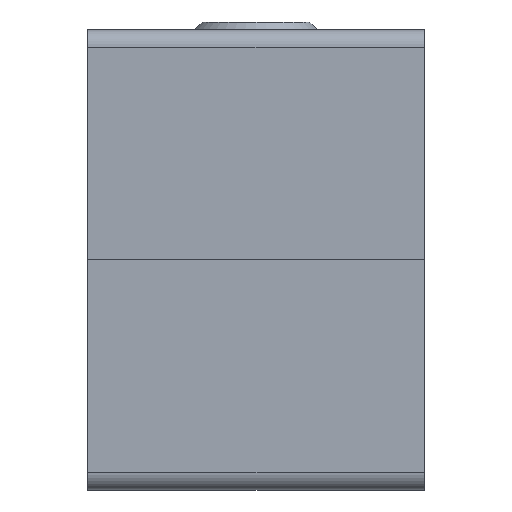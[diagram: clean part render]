
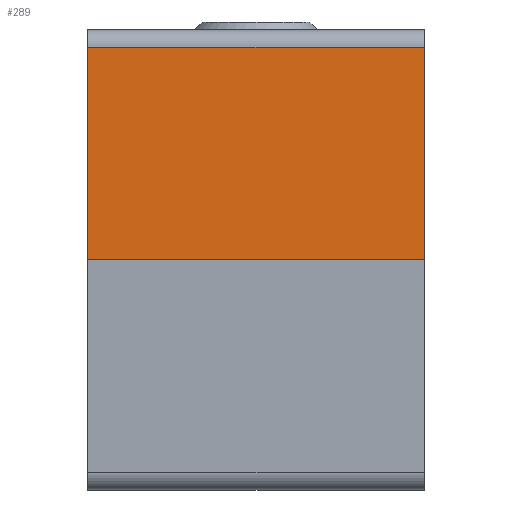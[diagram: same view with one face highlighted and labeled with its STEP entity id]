
A CAD part, left-side view. The second image highlights one B-rep face of the part: STEP entity #289.
In plain terms, the highlighted planar face has unit normal (-1, 0, 0) as drawn and (1, 0, 0) by its records, which use the part's own axes.
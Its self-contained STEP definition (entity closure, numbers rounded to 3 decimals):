
#289=ADVANCED_FACE('',(#556),#557,.F.);
#556=FACE_OUTER_BOUND('',#826,.T.);
#557=PLANE('',#827);
#826=EDGE_LOOP('',(#1464,#1465,#1466,#1467));
#827=AXIS2_PLACEMENT_3D('',#1468,#1469,#1470);
#1464=ORIENTED_EDGE('',*,*,#1817,.T.);
#1465=ORIENTED_EDGE('',*,*,#1885,.F.);
#1466=ORIENTED_EDGE('',*,*,#1764,.F.);
#1467=ORIENTED_EDGE('',*,*,#1942,.T.);
#1468=CARTESIAN_POINT('',(18.,0.,19.0));
#1469=DIRECTION('',(-1.0,0.0,0.0));
#1470=DIRECTION('',(0.0,0.0,1.0));
#1764=EDGE_CURVE('',#2129,#2131,#2132,.T.);
#1817=EDGE_CURVE('',#2228,#2226,#2229,.T.);
#1885=EDGE_CURVE('',#2131,#2226,#2317,.T.);
#1942=EDGE_CURVE('',#2129,#2228,#2387,.T.);
#2129=VERTEX_POINT('',#2628);
#2131=VERTEX_POINT('',#2631);
#2132=LINE('',#2632,#2633);
#2226=VERTEX_POINT('',#2759);
#2228=VERTEX_POINT('',#2761);
#2229=LINE('',#2762,#2763);
#2317=LINE('',#2891,#2892);
#2387=LINE('',#2984,#2985);
#2628=CARTESIAN_POINT('',(18.,0.,19.0));
#2631=CARTESIAN_POINT('',(18.,12.,19.0));
#2632=CARTESIAN_POINT('',(18.,0.,19.0));
#2633=VECTOR('',#3138,1.0);
#2759=CARTESIAN_POINT('',(18.,12.,0.0));
#2761=CARTESIAN_POINT('',(18.,0.,0.0));
#2762=CARTESIAN_POINT('',(18.,0.,0.0));
#2763=VECTOR('',#3222,1.0);
#2891=CARTESIAN_POINT('',(18.,12.,19.0));
#2892=VECTOR('',#3290,1.0);
#2984=CARTESIAN_POINT('',(18.,0.,19.0));
#2985=VECTOR('',#3352,1.0);
#3138=DIRECTION('',(0.0,1.0,0.0));
#3222=DIRECTION('',(0.0,1.0,0.0));
#3290=DIRECTION('',(0.0,0.0,-1.0));
#3352=DIRECTION('',(0.0,0.0,-1.0));
